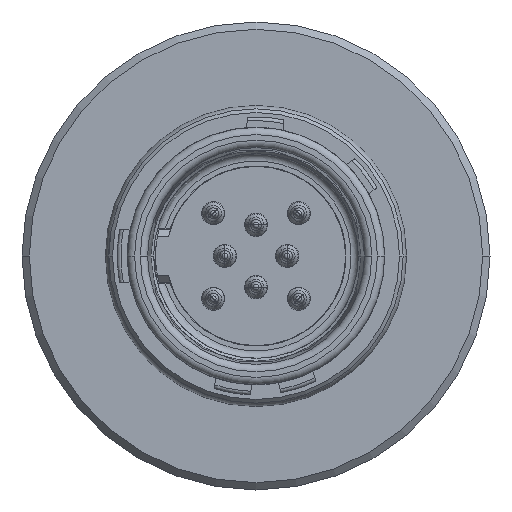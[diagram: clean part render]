
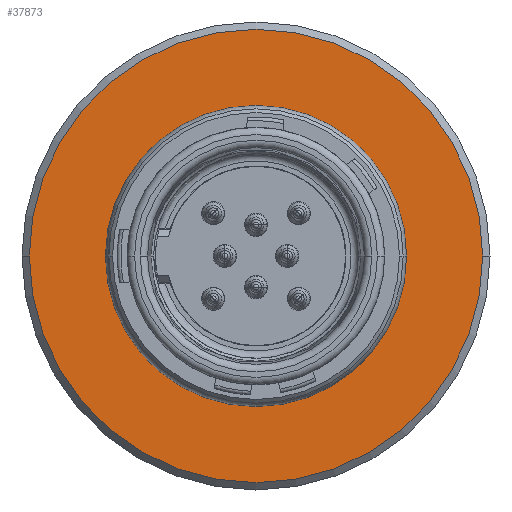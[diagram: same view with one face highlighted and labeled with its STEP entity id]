
A CAD part, left-side view. The second image highlights one B-rep face of the part: STEP entity #37873.
In plain terms, the highlighted planar face has unit normal (-1, 0, 0).
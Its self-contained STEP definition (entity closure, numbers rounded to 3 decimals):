
#11526=CARTESIAN_POINT('',(-5.7,0.,0.));
#11527=DIRECTION('',(-1.,0.,0.));
#11528=DIRECTION('',(0.,1.,0.));
#11529=AXIS2_PLACEMENT_3D('',#11526,#11527,#11528);
#11539=CARTESIAN_POINT('',(-5.7,0.,0.));
#11540=DIRECTION('',(1.,0.,0.));
#11541=DIRECTION('',(0.,1.,0.));
#11542=AXIS2_PLACEMENT_3D('',#11539,#11540,#11541);
#11544=CARTESIAN_POINT('',(-5.7,0.,0.));
#11545=DIRECTION('',(-1.,0.,0.));
#11546=DIRECTION('',(0.,1.,0.));
#11547=AXIS2_PLACEMENT_3D('',#11544,#11545,#11546);
#11553=CARTESIAN_POINT('',(-5.7,0.,0.));
#11554=DIRECTION('',(1.,0.,0.));
#11555=DIRECTION('',(0.,1.,0.));
#11556=AXIS2_PLACEMENT_3D('',#11553,#11554,#11555);
#22485=CARTESIAN_POINT('',(-5.7,6.2,0.));
#22486=VERTEX_POINT('',#22485);
#22487=CARTESIAN_POINT('',(-5.7,-6.2,0.));
#22488=VERTEX_POINT('',#22487);
#22575=CARTESIAN_POINT('',(-5.7,3.941,0.));
#22577=VERTEX_POINT('',#22575);
#22581=CARTESIAN_POINT('',(-5.7,-3.941,0.));
#22583=VERTEX_POINT('',#22581);
#37858=CARTESIAN_POINT('',(-5.7,0.,0.));
#37859=DIRECTION('',(-1.,0.,0.));
#37860=DIRECTION('',(0.,-1.,0.));
#37861=AXIS2_PLACEMENT_3D('',#37858,#37859,#37860);
#37862=PLANE('',#37861);
#37863=ORIENTED_EDGE('',*,*,#37823,.F.);
#37864=ORIENTED_EDGE('',*,*,#37846,.T.);
#37865=EDGE_LOOP('',(#37863,#37864));
#37866=FACE_OUTER_BOUND('',#37865,.F.);
#37868=ORIENTED_EDGE('',*,*,#37867,.T.);
#37870=ORIENTED_EDGE('',*,*,#37869,.F.);
#37871=EDGE_LOOP('',(#37868,#37870));
#37872=FACE_BOUND('',#37871,.F.);
#11530=CIRCLE('',#11529,6.2);
#11543=CIRCLE('',#11542,6.2);
#11548=CIRCLE('',#11547,3.941);
#11557=CIRCLE('',#11556,3.941);
#37823=EDGE_CURVE('',#22486,#22488,#11530,.T.);
#37846=EDGE_CURVE('',#22486,#22488,#11543,.T.);
#37867=EDGE_CURVE('',#22577,#22583,#11548,.T.);
#37869=EDGE_CURVE('',#22577,#22583,#11557,.T.);
#37873=ADVANCED_FACE('',(#37866,#37872),#37862,.T.);
